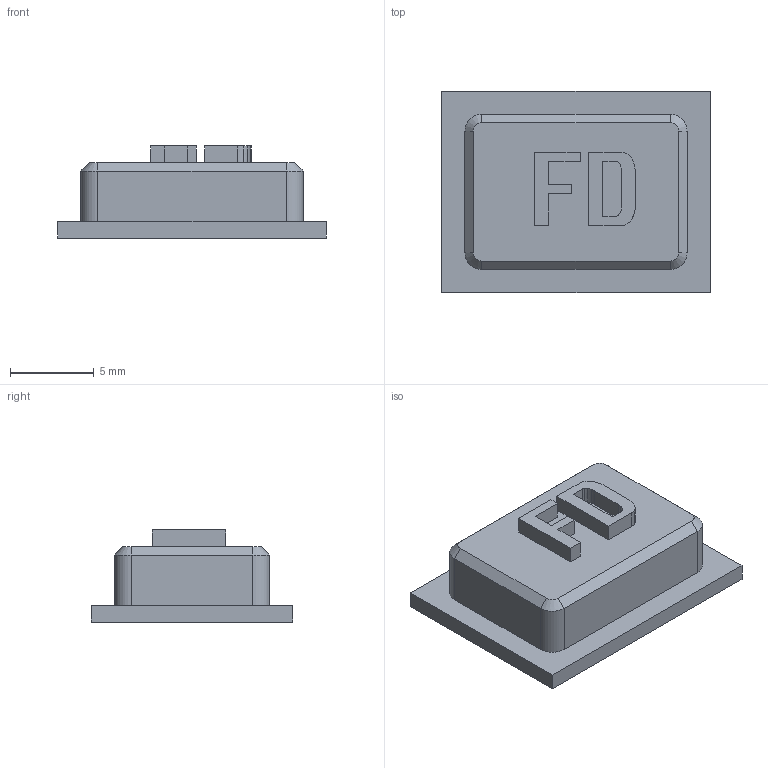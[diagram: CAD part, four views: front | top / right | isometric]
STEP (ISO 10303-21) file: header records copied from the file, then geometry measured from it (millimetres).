
FILE_DESCRIPTION(('FreeCAD Model'),'2;1');
FILE_NAME('E:/CAD Designs/Garmin/Final/CAD files/STEP/FD.step', '2021-02-27T12:56:19',('Author'),(''), 'Open CASCADE STEP processor 7.3','FreeCAD','Unknown');
FILE_SCHEMA(('AUTOMOTIVE_DESIGN { 1 0 10303 214 1 1 1 1 }'));
Length unit declared in the file: millimetre
Products named in the file (2): Body; Extrude
Bounding box: 16 x 12 x 5.5 mm (x, y, z)
Volume: 626.2 mm3; surface area: 644.4 mm2
Topology: 3 solids, 3 shells, 61 faces, 154 edges, 100 vertices
Faces by surface type: plane 37, extrusion 16, cylinder 4, cone 4
Entity records: 3883 total; most frequent: CARTESIAN_POINT 790, DIRECTION 517, VECTOR 394, LINE 378, ORIENTED_EDGE 308, PCURVE 308, DEFINITIONAL_REPRESENTATION 308, EDGE_CURVE 154
